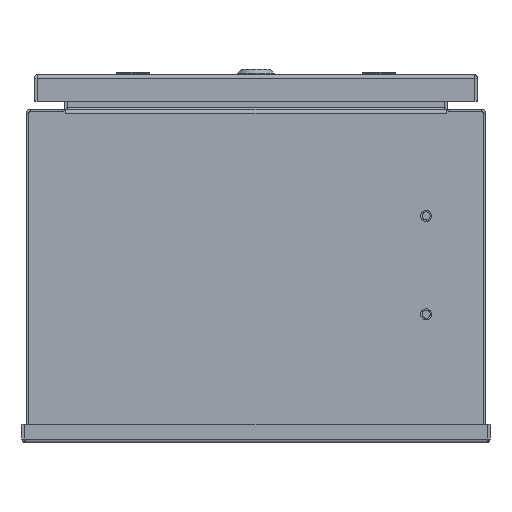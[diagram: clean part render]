
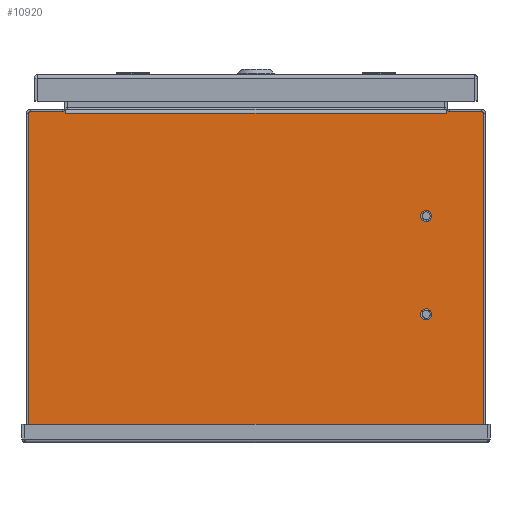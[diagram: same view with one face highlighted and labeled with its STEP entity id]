
A CAD part, front view. The second image highlights one B-rep face of the part: STEP entity #10920.
In plain terms, the highlighted planar face has unit normal (0, -1, 0).
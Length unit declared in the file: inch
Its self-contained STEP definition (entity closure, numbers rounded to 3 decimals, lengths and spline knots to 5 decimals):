
#9583=CARTESIAN_POINT('',(-6.857,0.,4.857));
#9584=DIRECTION('',(0.,-1.,0.));
#9585=DIRECTION('',(0.,0.,1.));
#9586=AXIS2_PLACEMENT_3D('',#9583,#9584,#9585);
#9591=DIRECTION('',(-1.,0.,0.));
#9592=VECTOR('',#9591,1.03388);
#9593=CARTESIAN_POINT('',(-5.82312,0.,4.937));
#9594=LINE('',#9593,#9592);
#9598=DIRECTION('',(0.174,0.,-0.985));
#9599=VECTOR('',#9598,0.05483);
#9600=CARTESIAN_POINT('',(-5.82312,0.,4.937));
#9601=LINE('',#9600,#9599);
#9605=DIRECTION('',(-1.,0.,0.));
#9606=VECTOR('',#9605,0.0156);
#9607=CARTESIAN_POINT('',(-5.798,0.,4.883));
#9608=LINE('',#9607,#9606);
#9612=DIRECTION('',(1.,0.,0.));
#9613=VECTOR('',#9612,0.0156);
#9614=CARTESIAN_POINT('',(5.798,0.,4.883));
#9615=LINE('',#9614,#9613);
#9619=DIRECTION('',(-0.174,0.,-0.985));
#9620=VECTOR('',#9619,0.05483);
#9621=CARTESIAN_POINT('',(5.82312,0.,4.937));
#9622=LINE('',#9621,#9620);
#9626=DIRECTION('',(-1.,0.,0.));
#9627=VECTOR('',#9626,1.03388);
#9628=CARTESIAN_POINT('',(6.857,0.,4.937));
#9629=LINE('',#9628,#9627);
#9633=CARTESIAN_POINT('',(6.857,0.,4.857));
#9634=DIRECTION('',(0.,-1.,0.));
#9635=DIRECTION('',(1.,0.,0.));
#9636=AXIS2_PLACEMENT_3D('',#9633,#9634,#9635);
#9641=DIRECTION('',(0.,0.,1.));
#9642=VECTOR('',#9641,9.714);
#9643=CARTESIAN_POINT('',(6.937,0.,-4.857));
#9644=LINE('',#9643,#9642);
#9648=CARTESIAN_POINT('',(6.857,0.,-4.857));
#9649=DIRECTION('',(0.,-1.,0.));
#9650=DIRECTION('',(0.,0.,-1.));
#9651=AXIS2_PLACEMENT_3D('',#9648,#9649,#9650);
#9656=DIRECTION('',(1.,0.,0.));
#9657=VECTOR('',#9656,13.714);
#9658=CARTESIAN_POINT('',(-6.857,0.,-4.937));
#9659=LINE('',#9658,#9657);
#9663=CARTESIAN_POINT('',(-6.857,0.,-4.857));
#9664=DIRECTION('',(0.,-1.,0.));
#9665=DIRECTION('',(-1.,0.,0.));
#9666=AXIS2_PLACEMENT_3D('',#9663,#9664,#9665);
#9671=DIRECTION('',(0.,0.,-1.));
#9672=VECTOR('',#9671,9.714);
#9673=CARTESIAN_POINT('',(-6.937,0.,4.857));
#9674=LINE('',#9673,#9672);
#9678=CARTESIAN_POINT('',(5.1875,0.,1.75));
#9679=DIRECTION('',(0.,1.,0.));
#9680=DIRECTION('',(0.,0.,-1.));
#9681=AXIS2_PLACEMENT_3D('',#9678,#9679,#9680);
#9686=CARTESIAN_POINT('',(5.1875,0.,1.75));
#9687=DIRECTION('',(0.,1.,0.));
#9688=DIRECTION('',(0.,0.,1.));
#9689=AXIS2_PLACEMENT_3D('',#9686,#9687,#9688);
#9694=CARTESIAN_POINT('',(5.1875,0.,-1.25));
#9695=DIRECTION('',(0.,1.,0.));
#9696=DIRECTION('',(0.,0.,-1.));
#9697=AXIS2_PLACEMENT_3D('',#9694,#9695,#9696);
#9702=CARTESIAN_POINT('',(5.1875,0.,-1.25));
#9703=DIRECTION('',(0.,1.,0.));
#9704=DIRECTION('',(0.,0.,1.));
#9705=AXIS2_PLACEMENT_3D('',#9702,#9703,#9704);
#10016=DIRECTION('',(1.,0.,0.));
#10017=VECTOR('',#10016,11.596);
#10018=CARTESIAN_POINT('',(-5.798,0.,4.883));
#10019=LINE('',#10018,#10017);
#10705=CARTESIAN_POINT('',(5.798,0.,4.883));
#10706=CARTESIAN_POINT('',(5.8136,0.,4.883));
#10707=VERTEX_POINT('',#10705);
#10708=VERTEX_POINT('',#10706);
#10709=CARTESIAN_POINT('',(5.82312,0.,4.937));
#10710=VERTEX_POINT('',#10709);
#10717=CARTESIAN_POINT('',(-5.798,0.,4.883));
#10718=CARTESIAN_POINT('',(-5.8136,0.,4.883));
#10719=VERTEX_POINT('',#10717);
#10720=VERTEX_POINT('',#10718);
#10721=CARTESIAN_POINT('',(-5.82312,0.,4.937));
#10722=VERTEX_POINT('',#10721);
#10781=CARTESIAN_POINT('',(-6.857,0.,4.937));
#10782=CARTESIAN_POINT('',(-6.937,0.,4.857));
#10783=VERTEX_POINT('',#10781);
#10784=VERTEX_POINT('',#10782);
#10789=CARTESIAN_POINT('',(-6.937,0.,-4.857));
#10790=CARTESIAN_POINT('',(-6.857,0.,-4.937));
#10791=VERTEX_POINT('',#10789);
#10792=VERTEX_POINT('',#10790);
#10797=CARTESIAN_POINT('',(6.857,0.,-4.937));
#10798=CARTESIAN_POINT('',(6.937,0.,-4.857));
#10799=VERTEX_POINT('',#10797);
#10800=VERTEX_POINT('',#10798);
#10805=CARTESIAN_POINT('',(6.937,0.,4.857));
#10806=CARTESIAN_POINT('',(6.857,0.,4.937));
#10807=VERTEX_POINT('',#10805);
#10808=VERTEX_POINT('',#10806);
#10857=CARTESIAN_POINT('',(5.1875,0.,1.62495));
#10858=CARTESIAN_POINT('',(5.1875,0.,1.87505));
#10859=VERTEX_POINT('',#10857);
#10860=VERTEX_POINT('',#10858);
#10861=CARTESIAN_POINT('',(5.1875,0.,-1.37505));
#10862=CARTESIAN_POINT('',(5.1875,0.,-1.12495));
#10863=VERTEX_POINT('',#10861);
#10864=VERTEX_POINT('',#10862);
#10873=CARTESIAN_POINT('',(0.,0.,0.));
#10874=DIRECTION('',(0.,-1.,0.));
#10875=DIRECTION('',(-1.,0.,0.));
#10876=AXIS2_PLACEMENT_3D('',#10873,#10874,#10875);
#10877=PLANE('',#10876);
#10879=ORIENTED_EDGE('',*,*,#10878,.F.);
#10881=ORIENTED_EDGE('',*,*,#10880,.F.);
#10883=ORIENTED_EDGE('',*,*,#10882,.T.);
#10885=ORIENTED_EDGE('',*,*,#10884,.F.);
#10887=ORIENTED_EDGE('',*,*,#10886,.T.);
#10889=ORIENTED_EDGE('',*,*,#10888,.T.);
#10891=ORIENTED_EDGE('',*,*,#10890,.F.);
#10893=ORIENTED_EDGE('',*,*,#10892,.F.);
#10895=ORIENTED_EDGE('',*,*,#10894,.F.);
#10897=ORIENTED_EDGE('',*,*,#10896,.F.);
#10899=ORIENTED_EDGE('',*,*,#10898,.F.);
#10901=ORIENTED_EDGE('',*,*,#10900,.F.);
#10903=ORIENTED_EDGE('',*,*,#10902,.F.);
#10905=ORIENTED_EDGE('',*,*,#10904,.F.);
#10906=EDGE_LOOP('',(#10879,#10881,#10883,#10885,#10887,#10889,#10891,#10893,
#10895,#10897,#10899,#10901,#10903,#10905));
#10907=FACE_OUTER_BOUND('',#10906,.F.);
#10909=ORIENTED_EDGE('',*,*,#10908,.F.);
#10911=ORIENTED_EDGE('',*,*,#10910,.F.);
#10912=EDGE_LOOP('',(#10909,#10911));
#10913=FACE_BOUND('',#10912,.F.);
#10915=ORIENTED_EDGE('',*,*,#10914,.F.);
#10917=ORIENTED_EDGE('',*,*,#10916,.F.);
#10918=EDGE_LOOP('',(#10915,#10917));
#10919=FACE_BOUND('',#10918,.F.);
#9587=CIRCLE('',#9586,0.08);
#9637=CIRCLE('',#9636,0.08);
#9652=CIRCLE('',#9651,0.08);
#9667=CIRCLE('',#9666,0.08);
#9682=CIRCLE('',#9681,0.12505);
#9690=CIRCLE('',#9689,0.12505);
#9698=CIRCLE('',#9697,0.12505);
#9706=CIRCLE('',#9705,0.12505);
#10878=EDGE_CURVE('',#10783,#10784,#9587,.T.);
#10880=EDGE_CURVE('',#10722,#10783,#9594,.T.);
#10882=EDGE_CURVE('',#10722,#10720,#9601,.T.);
#10884=EDGE_CURVE('',#10719,#10720,#9608,.T.);
#10886=EDGE_CURVE('',#10719,#10707,#10019,.T.);
#10888=EDGE_CURVE('',#10707,#10708,#9615,.T.);
#10890=EDGE_CURVE('',#10710,#10708,#9622,.T.);
#10892=EDGE_CURVE('',#10808,#10710,#9629,.T.);
#10894=EDGE_CURVE('',#10807,#10808,#9637,.T.);
#10896=EDGE_CURVE('',#10800,#10807,#9644,.T.);
#10898=EDGE_CURVE('',#10799,#10800,#9652,.T.);
#10900=EDGE_CURVE('',#10792,#10799,#9659,.T.);
#10902=EDGE_CURVE('',#10791,#10792,#9667,.T.);
#10904=EDGE_CURVE('',#10784,#10791,#9674,.T.);
#10908=EDGE_CURVE('',#10859,#10860,#9682,.T.);
#10910=EDGE_CURVE('',#10860,#10859,#9690,.T.);
#10914=EDGE_CURVE('',#10863,#10864,#9698,.T.);
#10916=EDGE_CURVE('',#10864,#10863,#9706,.T.);
#10920=ADVANCED_FACE('',(#10907,#10913,#10919),#10877,.T.);
